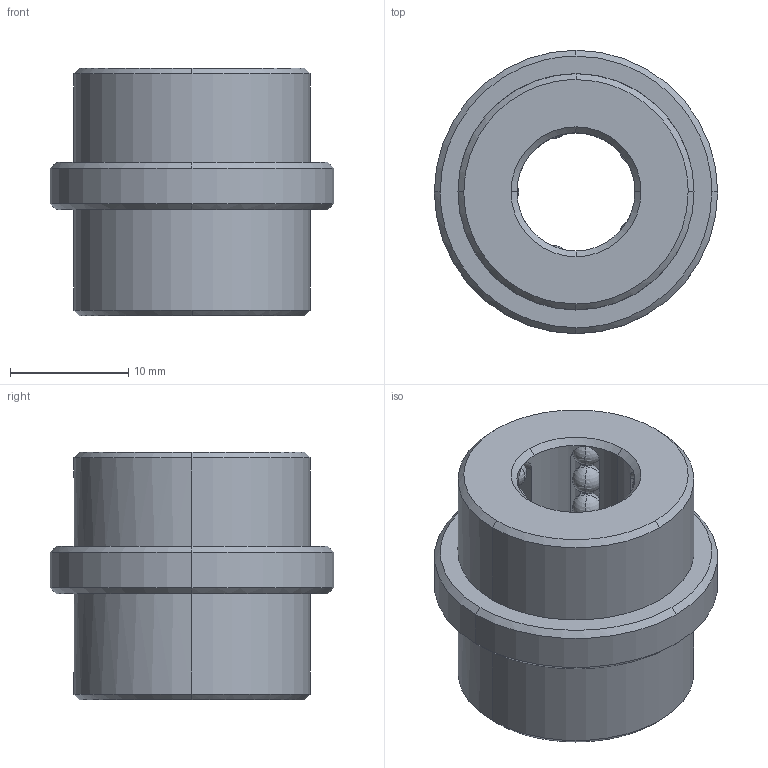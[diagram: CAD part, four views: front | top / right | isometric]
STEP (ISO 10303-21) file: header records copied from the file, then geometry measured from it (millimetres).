
FILE_DESCRIPTION(('CATIA V5 STEP Exchange'),'2;1');
FILE_NAME('C:\Users\Raffaele\Desktop\3D BOLEX\3D FILES CF BOLEX\2-BUSH REF 802\B8021012.stp','2019-06-19T14:00:07+00:00',('none'),('none'),'CATIA Version 5 Release 20 GA (IN-10)','CATIA V5 STEP AP203','none');
FILE_SCHEMA(('CONFIG_CONTROL_DESIGN'));
Length unit declared in the file: millimetre
Products named in the file (1): B8021012
Bounding box: 24 x 24 x 21 mm (x, y, z)
Volume: 5163.9 mm3; surface area: 3893.8 mm2
Topology: 36 solids, 36 shells, 201 faces, 567 edges, 164 vertices
Faces by surface type: sphere 140, cone 24, plane 19, cylinder 18
Entity records: 4507 total; most frequent: CARTESIAN_POINT 1163, DIRECTION 647, ORIENTED_EDGE 574, AXIS2_PLACEMENT_3D 374, EDGE_CURVE 287, EDGE_LOOP 209, ADVANCED_FACE 201, FACE_OUTER_BOUND 201
